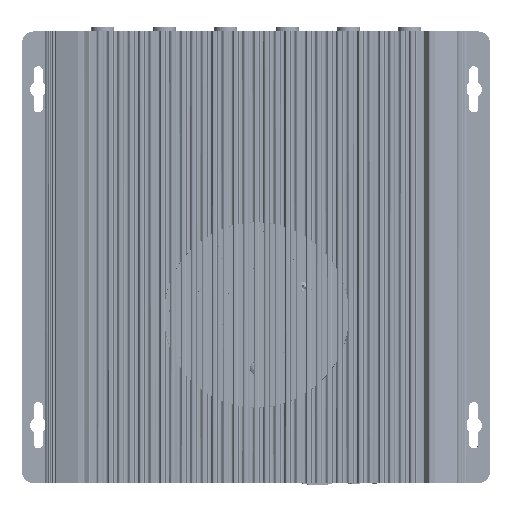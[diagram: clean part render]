
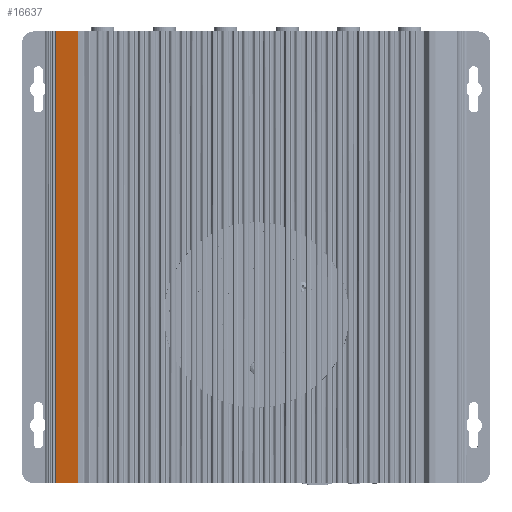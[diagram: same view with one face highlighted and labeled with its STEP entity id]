
A CAD part, top view. The second image highlights one B-rep face of the part: STEP entity #16637.
In plain terms, the highlighted planar face has unit normal (-0.262, -0.002, 0.965) as drawn and (0.266, 0, -0.964) by its records, which use the part's own axes.
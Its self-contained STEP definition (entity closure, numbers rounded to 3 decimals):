
#2064=DIRECTION('',(-0.964,0.,-0.266));
#2065=VECTOR('',#2064,9.784);
#2066=CARTESIAN_POINT('',(12276.238,4300.276,-59.876));
#2067=LINE('',#2066,#2065);
#3247=DIRECTION('',(0.964,0.,0.266));
#3248=VECTOR('',#3247,9.784);
#3249=CARTESIAN_POINT('',(12266.808,4105.276,-62.482));
#3250=LINE('',#3249,#3248);
#5526=DIRECTION('',(0.,1.,0.));
#5527=VECTOR('',#5526,195.);
#5528=CARTESIAN_POINT('',(12276.238,4105.276,-59.876));
#5529=LINE('',#5528,#5527);
#5530=DIRECTION('',(0.,-1.,0.));
#5531=VECTOR('',#5530,195.);
#5532=CARTESIAN_POINT('',(12266.808,4300.276,-62.482));
#5533=LINE('',#5532,#5531);
#9652=CARTESIAN_POINT('',(12266.808,4105.276,-62.482));
#9653=CARTESIAN_POINT('',(12276.238,4105.276,-59.876));
#9654=VERTEX_POINT('',#9652);
#9655=VERTEX_POINT('',#9653);
#10374=CARTESIAN_POINT('',(12266.808,4300.276,
-62.482));
#10376=VERTEX_POINT('',#10374);
#10932=CARTESIAN_POINT('',(12276.238,4300.276,
-59.876));
#10933=VERTEX_POINT('',#10932);
#16625=CARTESIAN_POINT('',(12276.238,4292.276,
-59.876));
#16626=DIRECTION('',(-0.266,0.,0.964));
#16627=DIRECTION('',(0.,1.,0.));
#16628=AXIS2_PLACEMENT_3D('',#16625,#16626,#16627);
#16629=PLANE('',#16628);
#16630=ORIENTED_EDGE('',*,*,#14656,.T.);
#16631=ORIENTED_EDGE('',*,*,#16620,.T.);
#16632=ORIENTED_EDGE('',*,*,#13806,.T.);
#16634=ORIENTED_EDGE('',*,*,#16633,.T.);
#16635=EDGE_LOOP('',(#16630,#16631,#16632,#16634));
#16636=FACE_OUTER_BOUND('',#16635,.F.);
#13806=EDGE_CURVE('',#10933,#10376,#2067,.T.);
#14656=EDGE_CURVE('',#9654,#9655,#3250,.T.);
#16620=EDGE_CURVE('',#9655,#10933,#5529,.T.);
#16633=EDGE_CURVE('',#10376,#9654,#5533,.T.);
#16637=ADVANCED_FACE('',(#16636),#16629,.F.);
